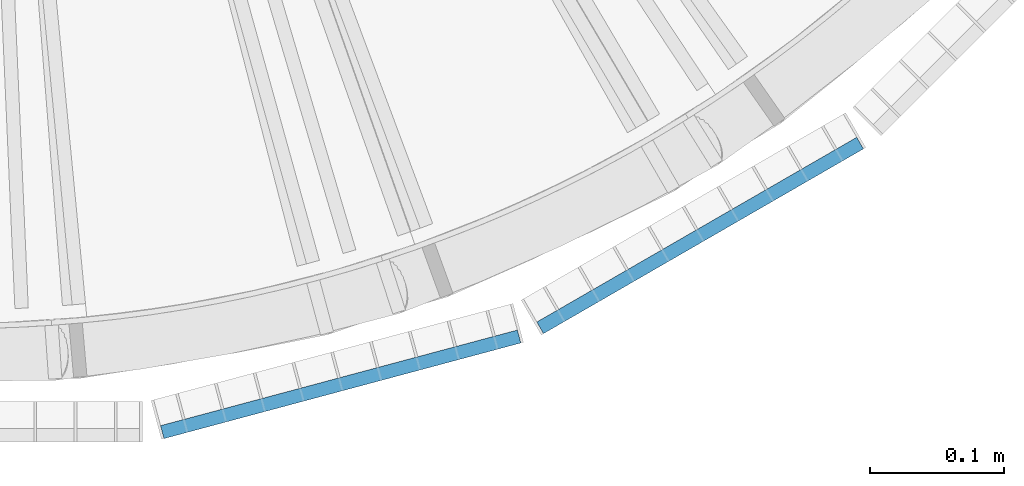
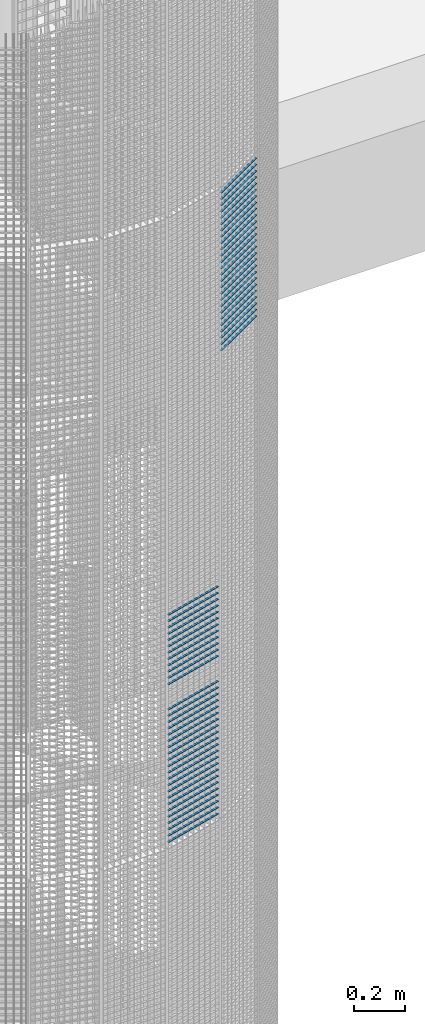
# One storey, part 397 of 1148: 60 beams, 2 elements without a shape of their own.
"""IFC2X3 building model written with IfcOpenShell, lengths in millimetres."""

from ifc_helpers import new_model, si_unit, frame, origin_with_axes, origin_2d_with_axis, place, context, subcontext, project, spatial, rectangle, extrude, material, type_object, element, aggregate, save


model = new_model("IFC2X3")

# Units and contexts
model_context = context("Model", 3, precision=1e-05, world=origin_with_axes())
body_context = subcontext(model_context, "Body", "Model", "MODEL_VIEW")
ifc_project = project(units=[si_unit("LENGTHUNIT", "METRE", prefix="MILLI"), si_unit("AREAUNIT", "SQUARE_METRE"), si_unit("VOLUMEUNIT", "CUBIC_METRE"), si_unit("MASSUNIT", "GRAM", prefix="KILO"), si_unit("TIMEUNIT", "SECOND"), si_unit("PLANEANGLEUNIT", "RADIAN"), si_unit("SOLIDANGLEUNIT", "STERADIAN"), si_unit("THERMODYNAMICTEMPERATUREUNIT", "DEGREE_CELSIUS"), si_unit("LUMINOUSINTENSITYUNIT", "LUMEN")], contexts=[model_context])

# Site, building, storey
site_placement = place(None, origin_with_axes())
site = spatial("IfcSite", under=ifc_project, at=site_placement, Name="Undefined", CompositionType="ELEMENT")
building_placement = place(site_placement, origin_with_axes())
building = spatial("IfcBuilding", under=site, at=building_placement, Name="Undefined", CompositionType="ELEMENT")
storey_placement = place(building_placement, origin_with_axes())
storey = spatial("IfcBuildingStorey", under=building, at=storey_placement, Name="Undefined", CompositionType="ELEMENT", Elevation=0.0)

# Assembly, beams
assembly_1_placement = place(storey_placement, origin_with_axes())
assembly_1 = element("IfcElementAssembly", 1, at=assembly_1_placement, inside=storey, Name="BORDURE", AssemblyPlace="NOTDEFINED", PredefinedType="NOTDEFINED")
ifc_material = material(Name="STEEL/S235JR")
beam_type = type_object("IfcBeamType", Name="PL2*10", PredefinedType="NOTDEFINED")
beam_1_placement = place(assembly_1_placement, frame((22021.4837339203, -1039.82309522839, 6660.0), z_axis=(0.258819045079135, -0.965925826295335, 0.0), x_axis=(-0.965925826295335, -0.258819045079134, 0.0)))
beam_1 = element("IfcBeam", 2, at=beam_1_placement, type_object=beam_type, material=ifc_material, Name="ENTRETOISE", context=body_context, shape_type="SweptSolid", body=[
    extrude(rectangle(XDim=2.0, YDim=10.0, at=origin_2d_with_axis()), frame((275.999999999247, 9.09494701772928e-13, 1.53210777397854e-14), z_axis=(-1.0, 0.0, 0.0), x_axis=(0.0, -1.0, 0.0)), (0.0, 0.0, 1.0), 276.0),
])
beam_2_placement = place(assembly_1_placement, frame((22021.4837339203, -1039.82309522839, 6630.0), z_axis=(0.258819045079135, -0.965925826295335, 0.0), x_axis=(-0.965925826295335, -0.258819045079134, 0.0)))
beam_2 = element("IfcBeam", 3, at=beam_2_placement, type_object=beam_type, material=ifc_material, Name="ENTRETOISE", context=body_context, shape_type="SweptSolid", body=[
    extrude(rectangle(XDim=2.0, YDim=10.0, at=origin_2d_with_axis()), frame((275.999999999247, 9.09494701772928e-13, 1.53210777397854e-14), z_axis=(-1.0, 0.0, 0.0), x_axis=(0.0, -1.0, 0.0)), (0.0, 0.0, 1.0), 276.0),
])
beam_3_placement = place(assembly_1_placement, frame((22021.4837339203, -1039.82309522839, 6780.0), z_axis=(0.258819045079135, -0.965925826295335, 0.0), x_axis=(-0.965925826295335, -0.258819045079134, 0.0)))
beam_3 = element("IfcBeam", 4, at=beam_3_placement, type_object=beam_type, material=ifc_material, Name="ENTRETOISE", context=body_context, shape_type="SweptSolid", body=[
    extrude(rectangle(XDim=2.0, YDim=10.0, at=origin_2d_with_axis()), frame((275.999999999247, 9.09494701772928e-13, 1.53210777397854e-14), z_axis=(-1.0, 0.0, 0.0), x_axis=(0.0, -1.0, 0.0)), (0.0, 0.0, 1.0), 276.0),
])
beam_4_placement = place(assembly_1_placement, frame((22021.4837339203, -1039.82309522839, 6600.0), z_axis=(0.258819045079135, -0.965925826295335, 0.0), x_axis=(-0.965925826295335, -0.258819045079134, 0.0)))
beam_4 = element("IfcBeam", 5, at=beam_4_placement, type_object=beam_type, material=ifc_material, Name="ENTRETOISE", context=body_context, shape_type="SweptSolid", body=[
    extrude(rectangle(XDim=2.0, YDim=10.0, at=origin_2d_with_axis()), frame((275.999999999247, 9.09494701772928e-13, 1.53210777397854e-14), z_axis=(-1.0, 0.0, 0.0), x_axis=(0.0, -1.0, 0.0)), (0.0, 0.0, 1.0), 276.0),
])
beam_5_placement = place(assembly_1_placement, frame((22021.4837339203, -1039.82309522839, 6810.0), z_axis=(0.258819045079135, -0.965925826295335, 0.0), x_axis=(-0.965925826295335, -0.258819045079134, 0.0)))
beam_5 = element("IfcBeam", 6, at=beam_5_placement, type_object=beam_type, material=ifc_material, Name="ENTRETOISE", context=body_context, shape_type="SweptSolid", body=[
    extrude(rectangle(XDim=2.0, YDim=10.0, at=origin_2d_with_axis()), frame((275.999999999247, 9.09494701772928e-13, 1.53210777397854e-14), z_axis=(-1.0, 0.0, 0.0), x_axis=(0.0, -1.0, 0.0)), (0.0, 0.0, 1.0), 276.0),
])
beam_6_placement = place(assembly_1_placement, frame((22021.4837339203, -1039.82309522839, 6570.0), z_axis=(0.258819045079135, -0.965925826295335, 0.0), x_axis=(-0.965925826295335, -0.258819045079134, 0.0)))
beam_6 = element("IfcBeam", 7, at=beam_6_placement, type_object=beam_type, material=ifc_material, Name="ENTRETOISE", context=body_context, shape_type="SweptSolid", body=[
    extrude(rectangle(XDim=2.0, YDim=10.0, at=origin_2d_with_axis()), frame((275.999999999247, 9.09494701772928e-13, 1.53210777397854e-14), z_axis=(-1.0, 0.0, 0.0), x_axis=(0.0, -1.0, 0.0)), (0.0, 0.0, 1.0), 276.0),
])
beam_7_placement = place(assembly_1_placement, frame((22021.4837339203, -1039.82309522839, 6540.0), z_axis=(0.258819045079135, -0.965925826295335, 0.0), x_axis=(-0.965925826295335, -0.258819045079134, 0.0)))
beam_7 = element("IfcBeam", 8, at=beam_7_placement, type_object=beam_type, material=ifc_material, Name="ENTRETOISE", context=body_context, shape_type="SweptSolid", body=[
    extrude(rectangle(XDim=2.0, YDim=10.0, at=origin_2d_with_axis()), frame((275.999999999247, 9.09494701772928e-13, 1.53210777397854e-14), z_axis=(-1.0, 0.0, 0.0), x_axis=(0.0, -1.0, 0.0)), (0.0, 0.0, 1.0), 276.0),
])
beam_8_placement = place(assembly_1_placement, frame((22021.4837339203, -1039.82309522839, 6840.0), z_axis=(0.258819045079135, -0.965925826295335, 0.0), x_axis=(-0.965925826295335, -0.258819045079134, 0.0)))
beam_8 = element("IfcBeam", 9, at=beam_8_placement, type_object=beam_type, material=ifc_material, Name="ENTRETOISE", context=body_context, shape_type="SweptSolid", body=[
    extrude(rectangle(XDim=2.0, YDim=10.0, at=origin_2d_with_axis()), frame((275.999999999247, 9.09494701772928e-13, 1.53210777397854e-14), z_axis=(-1.0, 0.0, 0.0), x_axis=(0.0, -1.0, 0.0)), (0.0, 0.0, 1.0), 276.0),
])
beam_9_placement = place(assembly_1_placement, frame((22021.4837339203, -1039.82309522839, 6510.0), z_axis=(0.258819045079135, -0.965925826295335, 0.0), x_axis=(-0.965925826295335, -0.258819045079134, 0.0)))
beam_9 = element("IfcBeam", 10, at=beam_9_placement, type_object=beam_type, material=ifc_material, Name="ENTRETOISE", context=body_context, shape_type="SweptSolid", body=[
    extrude(rectangle(XDim=2.0, YDim=10.0, at=origin_2d_with_axis()), frame((275.999999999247, 9.09494701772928e-13, 1.53210777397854e-14), z_axis=(-1.0, 0.0, 0.0), x_axis=(0.0, -1.0, 0.0)), (0.0, 0.0, 1.0), 276.0),
])
beam_10_placement = place(assembly_1_placement, frame((22021.4837339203, -1039.82309522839, 6480.0), z_axis=(0.258819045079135, -0.965925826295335, 0.0), x_axis=(-0.965925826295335, -0.258819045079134, 0.0)))
beam_10 = element("IfcBeam", 11, at=beam_10_placement, type_object=beam_type, material=ifc_material, Name="ENTRETOISE", context=body_context, shape_type="SweptSolid", body=[
    extrude(rectangle(XDim=2.0, YDim=10.0, at=origin_2d_with_axis()), frame((275.999999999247, 9.09494701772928e-13, 1.53210777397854e-14), z_axis=(-1.0, 0.0, 0.0), x_axis=(0.0, -1.0, 0.0)), (0.0, 0.0, 1.0), 276.0),
])
beam_11_placement = place(assembly_1_placement, frame((22021.4837339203, -1039.82309522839, 6870.0), z_axis=(0.258819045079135, -0.965925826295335, 0.0), x_axis=(-0.965925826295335, -0.258819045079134, 0.0)))
beam_11 = element("IfcBeam", 12, at=beam_11_placement, type_object=beam_type, material=ifc_material, Name="ENTRETOISE", context=body_context, shape_type="SweptSolid", body=[
    extrude(rectangle(XDim=2.0, YDim=10.0, at=origin_2d_with_axis()), frame((275.999999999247, 9.09494701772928e-13, 1.53210777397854e-14), z_axis=(-1.0, 0.0, 0.0), x_axis=(0.0, -1.0, 0.0)), (0.0, 0.0, 1.0), 276.0),
])
beam_12_placement = place(assembly_1_placement, frame((22021.4837339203, -1039.82309522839, 6450.0), z_axis=(0.258819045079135, -0.965925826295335, 0.0), x_axis=(-0.965925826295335, -0.258819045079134, 0.0)))
beam_12 = element("IfcBeam", 13, at=beam_12_placement, type_object=beam_type, material=ifc_material, Name="ENTRETOISE", context=body_context, shape_type="SweptSolid", body=[
    extrude(rectangle(XDim=2.0, YDim=10.0, at=origin_2d_with_axis()), frame((275.999999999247, 9.09494701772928e-13, 1.53210777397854e-14), z_axis=(-1.0, 0.0, 0.0), x_axis=(0.0, -1.0, 0.0)), (0.0, 0.0, 1.0), 276.0),
])
beam_13_placement = place(assembly_1_placement, frame((22021.4837339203, -1039.82309522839, 6420.0), z_axis=(0.258819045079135, -0.965925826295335, 0.0), x_axis=(-0.965925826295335, -0.258819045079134, 0.0)))
beam_13 = element("IfcBeam", 14, at=beam_13_placement, type_object=beam_type, material=ifc_material, Name="ENTRETOISE", context=body_context, shape_type="SweptSolid", body=[
    extrude(rectangle(XDim=2.0, YDim=10.0, at=origin_2d_with_axis()), frame((275.999999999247, 9.09494701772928e-13, 1.53210777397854e-14), z_axis=(-1.0, 0.0, 0.0), x_axis=(0.0, -1.0, 0.0)), (0.0, 0.0, 1.0), 276.0),
])
beam_14_placement = place(assembly_1_placement, frame((22021.4837339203, -1039.82309522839, 6900.0), z_axis=(0.258819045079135, -0.965925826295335, 0.0), x_axis=(-0.965925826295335, -0.258819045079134, 0.0)))
beam_14 = element("IfcBeam", 15, at=beam_14_placement, type_object=beam_type, material=ifc_material, Name="ENTRETOISE", context=body_context, shape_type="SweptSolid", body=[
    extrude(rectangle(XDim=2.0, YDim=10.0, at=origin_2d_with_axis()), frame((275.999999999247, 9.09494701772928e-13, 1.53210777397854e-14), z_axis=(-1.0, 0.0, 0.0), x_axis=(0.0, -1.0, 0.0)), (0.0, 0.0, 1.0), 276.0),
])
beam_15_placement = place(assembly_1_placement, frame((22021.4837339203, -1039.82309522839, 6390.0), z_axis=(0.258819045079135, -0.965925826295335, 0.0), x_axis=(-0.965925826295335, -0.258819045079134, 0.0)))
beam_15 = element("IfcBeam", 16, at=beam_15_placement, type_object=beam_type, material=ifc_material, Name="ENTRETOISE", context=body_context, shape_type="SweptSolid", body=[
    extrude(rectangle(XDim=2.0, YDim=10.0, at=origin_2d_with_axis()), frame((275.999999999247, 9.09494701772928e-13, 1.53210777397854e-14), z_axis=(-1.0, 0.0, 0.0), x_axis=(0.0, -1.0, 0.0)), (0.0, 0.0, 1.0), 276.0),
])
beam_16_placement = place(assembly_1_placement, frame((22021.4837339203, -1039.82309522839, 6930.0), z_axis=(0.258819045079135, -0.965925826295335, 0.0), x_axis=(-0.965925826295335, -0.258819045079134, 0.0)))
beam_16 = element("IfcBeam", 17, at=beam_16_placement, type_object=beam_type, material=ifc_material, Name="ENTRETOISE", context=body_context, shape_type="SweptSolid", body=[
    extrude(rectangle(XDim=2.0, YDim=10.0, at=origin_2d_with_axis()), frame((275.999999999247, 9.09494701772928e-13, 1.53210777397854e-14), z_axis=(-1.0, 0.0, 0.0), x_axis=(0.0, -1.0, 0.0)), (0.0, 0.0, 1.0), 276.0),
])
beam_17_placement = place(assembly_1_placement, frame((22021.4837339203, -1039.82309522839, 6360.0), z_axis=(0.258819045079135, -0.965925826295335, 0.0), x_axis=(-0.965925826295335, -0.258819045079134, 0.0)))
beam_17 = element("IfcBeam", 18, at=beam_17_placement, type_object=beam_type, material=ifc_material, Name="ENTRETOISE", context=body_context, shape_type="SweptSolid", body=[
    extrude(rectangle(XDim=2.0, YDim=10.0, at=origin_2d_with_axis()), frame((275.999999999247, 9.09494701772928e-13, 1.53210777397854e-14), z_axis=(-1.0, 0.0, 0.0), x_axis=(0.0, -1.0, 0.0)), (0.0, 0.0, 1.0), 276.0),
])
beam_18_placement = place(assembly_1_placement, frame((22021.4837339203, -1039.82309522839, 6330.0), z_axis=(0.258819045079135, -0.965925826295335, 0.0), x_axis=(-0.965925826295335, -0.258819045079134, 0.0)))
beam_18 = element("IfcBeam", 19, at=beam_18_placement, type_object=beam_type, material=ifc_material, Name="ENTRETOISE", context=body_context, shape_type="SweptSolid", body=[
    extrude(rectangle(XDim=2.0, YDim=10.0, at=origin_2d_with_axis()), frame((275.999999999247, 9.09494701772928e-13, 1.53210777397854e-14), z_axis=(-1.0, 0.0, 0.0), x_axis=(0.0, -1.0, 0.0)), (0.0, 0.0, 1.0), 276.0),
])
beam_19_placement = place(assembly_1_placement, frame((22021.4837339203, -1039.82309522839, 6960.0), z_axis=(0.258819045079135, -0.965925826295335, 0.0), x_axis=(-0.965925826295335, -0.258819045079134, 0.0)))
beam_19 = element("IfcBeam", 20, at=beam_19_placement, type_object=beam_type, material=ifc_material, Name="ENTRETOISE", context=body_context, shape_type="SweptSolid", body=[
    extrude(rectangle(XDim=2.0, YDim=10.0, at=origin_2d_with_axis()), frame((275.999999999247, 9.09494701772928e-13, 1.53210777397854e-14), z_axis=(-1.0, 0.0, 0.0), x_axis=(0.0, -1.0, 0.0)), (0.0, 0.0, 1.0), 276.0),
])
beam_20_placement = place(assembly_1_placement, frame((22021.4837339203, -1039.82309522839, 6300.0), z_axis=(0.258819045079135, -0.965925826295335, 0.0), x_axis=(-0.965925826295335, -0.258819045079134, 0.0)))
beam_20 = element("IfcBeam", 21, at=beam_20_placement, type_object=beam_type, material=ifc_material, Name="ENTRETOISE", context=body_context, shape_type="SweptSolid", body=[
    extrude(rectangle(XDim=2.0, YDim=10.0, at=origin_2d_with_axis()), frame((275.999999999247, 9.09494701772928e-13, 1.53210777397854e-14), z_axis=(-1.0, 0.0, 0.0), x_axis=(0.0, -1.0, 0.0)), (0.0, 0.0, 1.0), 276.0),
])
beam_21_placement = place(assembly_1_placement, frame((22021.4837339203, -1039.82309522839, 6270.0), z_axis=(0.258819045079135, -0.965925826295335, 0.0), x_axis=(-0.965925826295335, -0.258819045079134, 0.0)))
beam_21 = element("IfcBeam", 22, at=beam_21_placement, type_object=beam_type, material=ifc_material, Name="ENTRETOISE", context=body_context, shape_type="SweptSolid", body=[
    extrude(rectangle(XDim=2.0, YDim=10.0, at=origin_2d_with_axis()), frame((275.999999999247, 9.09494701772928e-13, 1.53210777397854e-14), z_axis=(-1.0, 0.0, 0.0), x_axis=(0.0, -1.0, 0.0)), (0.0, 0.0, 1.0), 276.0),
])
beam_22_placement = place(assembly_1_placement, frame((22021.4837339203, -1039.82309522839, 6990.0), z_axis=(0.258819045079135, -0.965925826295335, 0.0), x_axis=(-0.965925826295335, -0.258819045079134, 0.0)))
beam_22 = element("IfcBeam", 23, at=beam_22_placement, type_object=beam_type, material=ifc_material, Name="ENTRETOISE", context=body_context, shape_type="SweptSolid", body=[
    extrude(rectangle(XDim=2.0, YDim=10.0, at=origin_2d_with_axis()), frame((275.999999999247, 9.09494701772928e-13, 1.53210777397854e-14), z_axis=(-1.0, 0.0, 0.0), x_axis=(0.0, -1.0, 0.0)), (0.0, 0.0, 1.0), 276.0),
])
beam_23_placement = place(assembly_1_placement, frame((22021.4837339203, -1039.82309522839, 6240.0), z_axis=(0.258819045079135, -0.965925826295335, 0.0), x_axis=(-0.965925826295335, -0.258819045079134, 0.0)))
beam_23 = element("IfcBeam", 24, at=beam_23_placement, type_object=beam_type, material=ifc_material, Name="ENTRETOISE", context=body_context, shape_type="SweptSolid", body=[
    extrude(rectangle(XDim=2.0, YDim=10.0, at=origin_2d_with_axis()), frame((275.999999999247, 9.09494701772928e-13, 1.53210777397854e-14), z_axis=(-1.0, 0.0, 0.0), x_axis=(0.0, -1.0, 0.0)), (0.0, 0.0, 1.0), 276.0),
])
beam_24_placement = place(assembly_1_placement, frame((22021.4837339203, -1039.82309522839, 7020.0), z_axis=(0.258819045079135, -0.965925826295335, 0.0), x_axis=(-0.965925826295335, -0.258819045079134, 0.0)))
beam_24 = element("IfcBeam", 25, at=beam_24_placement, type_object=beam_type, material=ifc_material, Name="ENTRETOISE", context=body_context, shape_type="SweptSolid", body=[
    extrude(rectangle(XDim=2.0, YDim=10.0, at=origin_2d_with_axis()), frame((275.999999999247, 9.09494701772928e-13, 1.53210777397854e-14), z_axis=(-1.0, 0.0, 0.0), x_axis=(0.0, -1.0, 0.0)), (0.0, 0.0, 1.0), 276.0),
])
beam_25_placement = place(assembly_1_placement, frame((22021.4837339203, -1039.82309522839, 6210.0), z_axis=(0.258819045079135, -0.965925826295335, 0.0), x_axis=(-0.965925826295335, -0.258819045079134, 0.0)))
beam_25 = element("IfcBeam", 26, at=beam_25_placement, type_object=beam_type, material=ifc_material, Name="ENTRETOISE", context=body_context, shape_type="SweptSolid", body=[
    extrude(rectangle(XDim=2.0, YDim=10.0, at=origin_2d_with_axis()), frame((275.999999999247, 9.09494701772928e-13, 1.53210777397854e-14), z_axis=(-1.0, 0.0, 0.0), x_axis=(0.0, -1.0, 0.0)), (0.0, 0.0, 1.0), 276.0),
])
beam_26_placement = place(assembly_1_placement, frame((22021.4837339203, -1039.82309522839, 6180.0), z_axis=(0.258819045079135, -0.965925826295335, 0.0), x_axis=(-0.965925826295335, -0.258819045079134, 0.0)))
beam_26 = element("IfcBeam", 27, at=beam_26_placement, type_object=beam_type, material=ifc_material, Name="ENTRETOISE", context=body_context, shape_type="SweptSolid", body=[
    extrude(rectangle(XDim=2.0, YDim=10.0, at=origin_2d_with_axis()), frame((275.999999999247, 9.09494701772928e-13, 1.53210777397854e-14), z_axis=(-1.0, 0.0, 0.0), x_axis=(0.0, -1.0, 0.0)), (0.0, 0.0, 1.0), 276.0),
])
beam_27_placement = place(assembly_1_placement, frame((22021.4837339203, -1039.82309522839, 7050.0), z_axis=(0.258819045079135, -0.965925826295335, 0.0), x_axis=(-0.965925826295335, -0.258819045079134, 0.0)))
beam_27 = element("IfcBeam", 28, at=beam_27_placement, type_object=beam_type, material=ifc_material, Name="ENTRETOISE", context=body_context, shape_type="SweptSolid", body=[
    extrude(rectangle(XDim=2.0, YDim=10.0, at=origin_2d_with_axis()), frame((275.999999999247, 9.09494701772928e-13, 1.53210777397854e-14), z_axis=(-1.0, 0.0, 0.0), x_axis=(0.0, -1.0, 0.0)), (0.0, 0.0, 1.0), 276.0),
])
beam_28_placement = place(assembly_1_placement, frame((22021.4837339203, -1039.82309522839, 6150.0), z_axis=(0.258819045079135, -0.965925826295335, 0.0), x_axis=(-0.965925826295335, -0.258819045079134, 0.0)))
beam_28 = element("IfcBeam", 29, at=beam_28_placement, type_object=beam_type, material=ifc_material, Name="ENTRETOISE", context=body_context, shape_type="SweptSolid", body=[
    extrude(rectangle(XDim=2.0, YDim=10.0, at=origin_2d_with_axis()), frame((275.999999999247, 9.09494701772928e-13, 1.53210777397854e-14), z_axis=(-1.0, 0.0, 0.0), x_axis=(0.0, -1.0, 0.0)), (0.0, 0.0, 1.0), 276.0),
])
beam_29_placement = place(assembly_1_placement, frame((22021.4837339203, -1039.82309522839, 6120.0), z_axis=(0.258819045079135, -0.965925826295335, 0.0), x_axis=(-0.965925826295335, -0.258819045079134, 0.0)))
beam_29 = element("IfcBeam", 30, at=beam_29_placement, type_object=beam_type, material=ifc_material, Name="ENTRETOISE", context=body_context, shape_type="SweptSolid", body=[
    extrude(rectangle(XDim=2.0, YDim=10.0, at=origin_2d_with_axis()), frame((275.999999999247, 9.09494701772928e-13, 1.53210777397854e-14), z_axis=(-1.0, 0.0, 0.0), x_axis=(0.0, -1.0, 0.0)), (0.0, 0.0, 1.0), 276.0),
])
beam_30_placement = place(assembly_1_placement, frame((22021.4837339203, -1039.82309522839, 7080.0), z_axis=(0.258819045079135, -0.965925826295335, 0.0), x_axis=(-0.965925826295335, -0.258819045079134, 0.0)))
beam_30 = element("IfcBeam", 31, at=beam_30_placement, type_object=beam_type, material=ifc_material, Name="ENTRETOISE", context=body_context, shape_type="SweptSolid", body=[
    extrude(rectangle(XDim=2.0, YDim=10.0, at=origin_2d_with_axis()), frame((275.999999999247, 9.09494701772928e-13, 1.53210777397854e-14), z_axis=(-1.0, 0.0, 0.0), x_axis=(0.0, -1.0, 0.0)), (0.0, 0.0, 1.0), 276.0),
])
beam_31_placement = place(assembly_1_placement, frame((22021.4837339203, -1039.82309522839, 6090.0), z_axis=(0.258819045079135, -0.965925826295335, 0.0), x_axis=(-0.965925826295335, -0.258819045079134, 0.0)))
beam_31 = element("IfcBeam", 32, at=beam_31_placement, type_object=beam_type, material=ifc_material, Name="ENTRETOISE", context=body_context, shape_type="SweptSolid", body=[
    extrude(rectangle(XDim=2.0, YDim=10.0, at=origin_2d_with_axis()), frame((275.999999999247, 9.09494701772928e-13, 1.53210777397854e-14), z_axis=(-1.0, 0.0, 0.0), x_axis=(0.0, -1.0, 0.0)), (0.0, 0.0, 1.0), 276.0),
])
beam_32_placement = place(assembly_1_placement, frame((22021.4837339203, -1039.82309522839, 6060.0), z_axis=(0.258819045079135, -0.965925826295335, 0.0), x_axis=(-0.965925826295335, -0.258819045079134, 0.0)))
beam_32 = element("IfcBeam", 33, at=beam_32_placement, type_object=beam_type, material=ifc_material, Name="ENTRETOISE", context=body_context, shape_type="SweptSolid", body=[
    extrude(rectangle(XDim=2.0, YDim=10.0, at=origin_2d_with_axis()), frame((275.999999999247, 9.09494701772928e-13, 1.53210777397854e-14), z_axis=(-1.0, 0.0, 0.0), x_axis=(0.0, -1.0, 0.0)), (0.0, 0.0, 1.0), 276.0),
])
beam_33_placement = place(assembly_1_placement, frame((22021.4837339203, -1039.82309522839, 7110.0), z_axis=(0.258819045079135, -0.965925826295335, 0.0), x_axis=(-0.965925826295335, -0.258819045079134, 0.0)))
beam_33 = element("IfcBeam", 34, at=beam_33_placement, type_object=beam_type, material=ifc_material, Name="ENTRETOISE", context=body_context, shape_type="SweptSolid", body=[
    extrude(rectangle(XDim=2.0, YDim=10.0, at=origin_2d_with_axis()), frame((275.999999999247, 9.09494701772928e-13, 1.53210777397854e-14), z_axis=(-1.0, 0.0, 0.0), x_axis=(0.0, -1.0, 0.0)), (0.0, 0.0, 1.0), 276.0),
])
beam_34_placement = place(assembly_1_placement, frame((22021.4837339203, -1039.82309522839, 6030.0), z_axis=(0.258819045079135, -0.965925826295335, 0.0), x_axis=(-0.965925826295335, -0.258819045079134, 0.0)))
beam_34 = element("IfcBeam", 35, at=beam_34_placement, type_object=beam_type, material=ifc_material, Name="ENTRETOISE", context=body_context, shape_type="SweptSolid", body=[
    extrude(rectangle(XDim=2.0, YDim=10.0, at=origin_2d_with_axis()), frame((275.999999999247, 9.09494701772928e-13, 1.53210777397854e-14), z_axis=(-1.0, 0.0, 0.0), x_axis=(0.0, -1.0, 0.0)), (0.0, 0.0, 1.0), 276.0),
])
aggregate(assembly_1, [beam_1, beam_2, beam_3, beam_4, beam_5, beam_6, beam_7, beam_8, beam_9, beam_10, beam_11, beam_12, beam_13, beam_14, beam_15, beam_16, beam_17, beam_18, beam_19, beam_20, beam_21, beam_22, beam_23, beam_24, beam_25, beam_26, beam_27, beam_28, beam_29, beam_30, beam_31, beam_32, beam_33, beam_34])

assembly_2_placement = place(storey_placement, origin_with_axes())
assembly_2 = element("IfcElementAssembly", 36, at=assembly_2_placement, inside=storey, Name="BORDURE", AssemblyPlace="NOTDEFINED", PredefinedType="NOTDEFINED")
beam_35_placement = place(assembly_2_placement, frame((22276.2480445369, -895.303964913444, 8970.0), z_axis=(0.499999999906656, -0.866025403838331, 0.0), x_axis=(-0.866025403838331, -0.499999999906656, 0.0)))
beam_35 = element("IfcBeam", 37, at=beam_35_placement, type_object=beam_type, material=ifc_material, Name="ENTRETOISE", context=body_context, shape_type="SweptSolid", body=[
    extrude(rectangle(XDim=2.0, YDim=10.0, at=origin_2d_with_axis()), frame((275.999999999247, 9.09494701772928e-13, 1.53210777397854e-14), z_axis=(-1.0, 0.0, 0.0), x_axis=(0.0, -1.0, 0.0)), (0.0, 0.0, 1.0), 276.0),
])
beam_36_placement = place(assembly_2_placement, frame((22276.2480445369, -895.303964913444, 8940.0), z_axis=(0.499999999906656, -0.866025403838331, 0.0), x_axis=(-0.866025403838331, -0.499999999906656, 0.0)))
beam_36 = element("IfcBeam", 38, at=beam_36_placement, type_object=beam_type, material=ifc_material, Name="ENTRETOISE", context=body_context, shape_type="SweptSolid", body=[
    extrude(rectangle(XDim=2.0, YDim=10.0, at=origin_2d_with_axis()), frame((275.999999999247, 9.09494701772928e-13, 1.53210777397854e-14), z_axis=(-1.0, 0.0, 0.0), x_axis=(0.0, -1.0, 0.0)), (0.0, 0.0, 1.0), 276.0),
])
beam_37_placement = place(assembly_2_placement, frame((22276.2480445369, -895.303964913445, 8910.0), z_axis=(0.499999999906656, -0.866025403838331, 0.0), x_axis=(-0.866025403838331, -0.499999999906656, 0.0)))
beam_37 = element("IfcBeam", 39, at=beam_37_placement, type_object=beam_type, material=ifc_material, Name="ENTRETOISE", context=body_context, shape_type="SweptSolid", body=[
    extrude(rectangle(XDim=2.0, YDim=10.0, at=origin_2d_with_axis()), frame((275.999999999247, 9.09494701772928e-13, 1.53210777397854e-14), z_axis=(-1.0, 0.0, 0.0), x_axis=(0.0, -1.0, 0.0)), (0.0, 0.0, 1.0), 276.0),
])
beam_38_placement = place(assembly_2_placement, frame((22276.2480445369, -895.303964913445, 8880.0), z_axis=(0.499999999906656, -0.866025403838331, 0.0), x_axis=(-0.866025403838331, -0.499999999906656, 0.0)))
beam_38 = element("IfcBeam", 40, at=beam_38_placement, type_object=beam_type, material=ifc_material, Name="ENTRETOISE", context=body_context, shape_type="SweptSolid", body=[
    extrude(rectangle(XDim=2.0, YDim=10.0, at=origin_2d_with_axis()), frame((275.999999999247, 9.09494701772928e-13, 1.53210777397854e-14), z_axis=(-1.0, 0.0, 0.0), x_axis=(0.0, -1.0, 0.0)), (0.0, 0.0, 1.0), 276.0),
])
beam_39_placement = place(assembly_2_placement, frame((22276.2480445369, -895.303964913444, 8850.0), z_axis=(0.499999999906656, -0.866025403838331, 0.0), x_axis=(-0.866025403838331, -0.499999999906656, 0.0)))
beam_39 = element("IfcBeam", 41, at=beam_39_placement, type_object=beam_type, material=ifc_material, Name="ENTRETOISE", context=body_context, shape_type="SweptSolid", body=[
    extrude(rectangle(XDim=2.0, YDim=10.0, at=origin_2d_with_axis()), frame((275.999999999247, 9.09494701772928e-13, 1.53210777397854e-14), z_axis=(-1.0, 0.0, 0.0), x_axis=(0.0, -1.0, 0.0)), (0.0, 0.0, 1.0), 276.0),
])
beam_40_placement = place(assembly_2_placement, frame((22276.2480445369, -895.303964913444, 8820.0), z_axis=(0.499999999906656, -0.866025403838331, 0.0), x_axis=(-0.866025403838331, -0.499999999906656, 0.0)))
beam_40 = element("IfcBeam", 42, at=beam_40_placement, type_object=beam_type, material=ifc_material, Name="ENTRETOISE", context=body_context, shape_type="SweptSolid", body=[
    extrude(rectangle(XDim=2.0, YDim=10.0, at=origin_2d_with_axis()), frame((275.999999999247, 9.09494701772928e-13, 1.53210777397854e-14), z_axis=(-1.0, 0.0, 0.0), x_axis=(0.0, -1.0, 0.0)), (0.0, 0.0, 1.0), 276.0),
])
beam_41_placement = place(assembly_2_placement, frame((22276.2480445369, -895.303964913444, 8790.0), z_axis=(0.499999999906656, -0.866025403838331, 0.0), x_axis=(-0.866025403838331, -0.499999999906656, 0.0)))
beam_41 = element("IfcBeam", 43, at=beam_41_placement, type_object=beam_type, material=ifc_material, Name="ENTRETOISE", context=body_context, shape_type="SweptSolid", body=[
    extrude(rectangle(XDim=2.0, YDim=10.0, at=origin_2d_with_axis()), frame((275.999999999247, 9.09494701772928e-13, 1.53210777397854e-14), z_axis=(-1.0, 0.0, 0.0), x_axis=(0.0, -1.0, 0.0)), (0.0, 0.0, 1.0), 276.0),
])
beam_42_placement = place(assembly_2_placement, frame((22276.2480445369, -895.303964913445, 8760.0), z_axis=(0.499999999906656, -0.866025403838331, 0.0), x_axis=(-0.866025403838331, -0.499999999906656, 0.0)))
beam_42 = element("IfcBeam", 44, at=beam_42_placement, type_object=beam_type, material=ifc_material, Name="ENTRETOISE", context=body_context, shape_type="SweptSolid", body=[
    extrude(rectangle(XDim=2.0, YDim=10.0, at=origin_2d_with_axis()), frame((275.999999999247, 9.09494701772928e-13, 1.53210777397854e-14), z_axis=(-1.0, 0.0, 0.0), x_axis=(0.0, -1.0, 0.0)), (0.0, 0.0, 1.0), 276.0),
])
beam_43_placement = place(assembly_2_placement, frame((22276.2480445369, -895.303964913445, 8730.0), z_axis=(0.499999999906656, -0.866025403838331, 0.0), x_axis=(-0.866025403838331, -0.499999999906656, 0.0)))
beam_43 = element("IfcBeam", 45, at=beam_43_placement, type_object=beam_type, material=ifc_material, Name="ENTRETOISE", context=body_context, shape_type="SweptSolid", body=[
    extrude(rectangle(XDim=2.0, YDim=10.0, at=origin_2d_with_axis()), frame((275.999999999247, 9.09494701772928e-13, 1.53210777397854e-14), z_axis=(-1.0, 0.0, 0.0), x_axis=(0.0, -1.0, 0.0)), (0.0, 0.0, 1.0), 276.0),
])
beam_44_placement = place(assembly_2_placement, frame((22276.2480445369, -895.303964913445, 8700.0), z_axis=(0.499999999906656, -0.866025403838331, 0.0), x_axis=(-0.866025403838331, -0.499999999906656, 0.0)))
beam_44 = element("IfcBeam", 46, at=beam_44_placement, type_object=beam_type, material=ifc_material, Name="ENTRETOISE", context=body_context, shape_type="SweptSolid", body=[
    extrude(rectangle(XDim=2.0, YDim=10.0, at=origin_2d_with_axis()), frame((275.999999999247, 9.09494701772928e-13, 1.53210777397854e-14), z_axis=(-1.0, 0.0, 0.0), x_axis=(0.0, -1.0, 0.0)), (0.0, 0.0, 1.0), 276.0),
])
beam_45_placement = place(assembly_2_placement, frame((22276.2480445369, -895.303964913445, 8670.0), z_axis=(0.499999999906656, -0.866025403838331, 0.0), x_axis=(-0.866025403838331, -0.499999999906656, 0.0)))
beam_45 = element("IfcBeam", 47, at=beam_45_placement, type_object=beam_type, material=ifc_material, Name="ENTRETOISE", context=body_context, shape_type="SweptSolid", body=[
    extrude(rectangle(XDim=2.0, YDim=10.0, at=origin_2d_with_axis()), frame((275.999999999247, 9.09494701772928e-13, 1.53210777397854e-14), z_axis=(-1.0, 0.0, 0.0), x_axis=(0.0, -1.0, 0.0)), (0.0, 0.0, 1.0), 276.0),
])
beam_46_placement = place(assembly_2_placement, frame((22276.2480445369, -895.303964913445, 8640.0), z_axis=(0.499999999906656, -0.866025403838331, 0.0), x_axis=(-0.866025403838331, -0.499999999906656, 0.0)))
beam_46 = element("IfcBeam", 48, at=beam_46_placement, type_object=beam_type, material=ifc_material, Name="ENTRETOISE", context=body_context, shape_type="SweptSolid", body=[
    extrude(rectangle(XDim=2.0, YDim=10.0, at=origin_2d_with_axis()), frame((275.999999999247, 9.09494701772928e-13, 1.53210777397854e-14), z_axis=(-1.0, 0.0, 0.0), x_axis=(0.0, -1.0, 0.0)), (0.0, 0.0, 1.0), 276.0),
])
beam_47_placement = place(assembly_2_placement, frame((22276.2480445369, -895.303964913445, 8610.0), z_axis=(0.499999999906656, -0.866025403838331, 0.0), x_axis=(-0.866025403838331, -0.499999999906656, 0.0)))
beam_47 = element("IfcBeam", 49, at=beam_47_placement, type_object=beam_type, material=ifc_material, Name="ENTRETOISE", context=body_context, shape_type="SweptSolid", body=[
    extrude(rectangle(XDim=2.0, YDim=10.0, at=origin_2d_with_axis()), frame((275.999999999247, 9.09494701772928e-13, 1.53210777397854e-14), z_axis=(-1.0, 0.0, 0.0), x_axis=(0.0, -1.0, 0.0)), (0.0, 0.0, 1.0), 276.0),
])
beam_48_placement = place(assembly_2_placement, frame((22276.2480445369, -895.303964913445, 8580.0), z_axis=(0.499999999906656, -0.866025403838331, 0.0), x_axis=(-0.866025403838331, -0.499999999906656, 0.0)))
beam_48 = element("IfcBeam", 50, at=beam_48_placement, type_object=beam_type, material=ifc_material, Name="ENTRETOISE", context=body_context, shape_type="SweptSolid", body=[
    extrude(rectangle(XDim=2.0, YDim=10.0, at=origin_2d_with_axis()), frame((275.999999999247, 9.09494701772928e-13, 1.53210777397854e-14), z_axis=(-1.0, 0.0, 0.0), x_axis=(0.0, -1.0, 0.0)), (0.0, 0.0, 1.0), 276.0),
])
beam_49_placement = place(assembly_2_placement, frame((22276.2480445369, -895.303964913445, 8550.0), z_axis=(0.499999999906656, -0.866025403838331, 0.0), x_axis=(-0.866025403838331, -0.499999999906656, 0.0)))
beam_49 = element("IfcBeam", 51, at=beam_49_placement, type_object=beam_type, material=ifc_material, Name="ENTRETOISE", context=body_context, shape_type="SweptSolid", body=[
    extrude(rectangle(XDim=2.0, YDim=10.0, at=origin_2d_with_axis()), frame((275.999999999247, 9.09494701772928e-13, 1.53210777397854e-14), z_axis=(-1.0, 0.0, 0.0), x_axis=(0.0, -1.0, 0.0)), (0.0, 0.0, 1.0), 276.0),
])
beam_50_placement = place(assembly_2_placement, frame((22276.2480445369, -895.303964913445, 8520.0), z_axis=(0.499999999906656, -0.866025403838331, 0.0), x_axis=(-0.866025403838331, -0.499999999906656, 0.0)))
beam_50 = element("IfcBeam", 52, at=beam_50_placement, type_object=beam_type, material=ifc_material, Name="ENTRETOISE", context=body_context, shape_type="SweptSolid", body=[
    extrude(rectangle(XDim=2.0, YDim=10.0, at=origin_2d_with_axis()), frame((275.999999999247, 9.09494701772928e-13, 1.53210777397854e-14), z_axis=(-1.0, 0.0, 0.0), x_axis=(0.0, -1.0, 0.0)), (0.0, 0.0, 1.0), 276.0),
])
beam_51_placement = place(assembly_2_placement, frame((22276.2480445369, -895.303964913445, 8490.0), z_axis=(0.499999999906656, -0.866025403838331, 0.0), x_axis=(-0.866025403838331, -0.499999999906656, 0.0)))
beam_51 = element("IfcBeam", 53, at=beam_51_placement, type_object=beam_type, material=ifc_material, Name="ENTRETOISE", context=body_context, shape_type="SweptSolid", body=[
    extrude(rectangle(XDim=2.0, YDim=10.0, at=origin_2d_with_axis()), frame((275.999999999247, 9.09494701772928e-13, 1.53210777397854e-14), z_axis=(-1.0, 0.0, 0.0), x_axis=(0.0, -1.0, 0.0)), (0.0, 0.0, 1.0), 276.0),
])
beam_52_placement = place(assembly_2_placement, frame((22276.2480445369, -895.303964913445, 8460.0), z_axis=(0.499999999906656, -0.866025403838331, 0.0), x_axis=(-0.866025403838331, -0.499999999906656, 0.0)))
beam_52 = element("IfcBeam", 54, at=beam_52_placement, type_object=beam_type, material=ifc_material, Name="ENTRETOISE", context=body_context, shape_type="SweptSolid", body=[
    extrude(rectangle(XDim=2.0, YDim=10.0, at=origin_2d_with_axis()), frame((275.999999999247, 9.09494701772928e-13, 1.53210777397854e-14), z_axis=(-1.0, 0.0, 0.0), x_axis=(0.0, -1.0, 0.0)), (0.0, 0.0, 1.0), 276.0),
])
beam_53_placement = place(assembly_2_placement, frame((22276.2480445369, -895.303964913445, 8430.0), z_axis=(0.499999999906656, -0.866025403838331, 0.0), x_axis=(-0.866025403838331, -0.499999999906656, 0.0)))
beam_53 = element("IfcBeam", 55, at=beam_53_placement, type_object=beam_type, material=ifc_material, Name="ENTRETOISE", context=body_context, shape_type="SweptSolid", body=[
    extrude(rectangle(XDim=2.0, YDim=10.0, at=origin_2d_with_axis()), frame((275.999999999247, 9.09494701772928e-13, 1.53210777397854e-14), z_axis=(-1.0, 0.0, 0.0), x_axis=(0.0, -1.0, 0.0)), (0.0, 0.0, 1.0), 276.0),
])
beam_54_placement = place(assembly_2_placement, frame((22276.2480445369, -895.303964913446, 8400.0), z_axis=(0.499999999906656, -0.866025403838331, 0.0), x_axis=(-0.866025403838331, -0.499999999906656, 0.0)))
beam_54 = element("IfcBeam", 56, at=beam_54_placement, type_object=beam_type, material=ifc_material, Name="ENTRETOISE", context=body_context, shape_type="SweptSolid", body=[
    extrude(rectangle(XDim=2.0, YDim=10.0, at=origin_2d_with_axis()), frame((275.999999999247, 9.09494701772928e-13, 1.53210777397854e-14), z_axis=(-1.0, 0.0, 0.0), x_axis=(0.0, -1.0, 0.0)), (0.0, 0.0, 1.0), 276.0),
])
beam_55_placement = place(assembly_2_placement, frame((22276.2480445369, -895.303964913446, 8370.0), z_axis=(0.499999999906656, -0.866025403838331, 0.0), x_axis=(-0.866025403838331, -0.499999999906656, 0.0)))
beam_55 = element("IfcBeam", 57, at=beam_55_placement, type_object=beam_type, material=ifc_material, Name="ENTRETOISE", context=body_context, shape_type="SweptSolid", body=[
    extrude(rectangle(XDim=2.0, YDim=10.0, at=origin_2d_with_axis()), frame((275.999999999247, 9.09494701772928e-13, 1.53210777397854e-14), z_axis=(-1.0, 0.0, 0.0), x_axis=(0.0, -1.0, 0.0)), (0.0, 0.0, 1.0), 276.0),
])
beam_56_placement = place(assembly_2_placement, frame((22276.2480445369, -895.303964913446, 8340.0), z_axis=(0.499999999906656, -0.866025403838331, 0.0), x_axis=(-0.866025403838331, -0.499999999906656, 0.0)))
beam_56 = element("IfcBeam", 58, at=beam_56_placement, type_object=beam_type, material=ifc_material, Name="ENTRETOISE", context=body_context, shape_type="SweptSolid", body=[
    extrude(rectangle(XDim=2.0, YDim=10.0, at=origin_2d_with_axis()), frame((275.999999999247, 9.09494701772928e-13, 1.53210777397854e-14), z_axis=(-1.0, 0.0, 0.0), x_axis=(0.0, -1.0, 0.0)), (0.0, 0.0, 1.0), 276.0),
])
beam_57_placement = place(assembly_2_placement, frame((22276.2480445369, -895.303964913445, 8310.0), z_axis=(0.499999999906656, -0.866025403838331, 0.0), x_axis=(-0.866025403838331, -0.499999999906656, 0.0)))
beam_57 = element("IfcBeam", 59, at=beam_57_placement, type_object=beam_type, material=ifc_material, Name="ENTRETOISE", context=body_context, shape_type="SweptSolid", body=[
    extrude(rectangle(XDim=2.0, YDim=10.0, at=origin_2d_with_axis()), frame((275.999999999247, 9.09494701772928e-13, 1.53210777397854e-14), z_axis=(-1.0, 0.0, 0.0), x_axis=(0.0, -1.0, 0.0)), (0.0, 0.0, 1.0), 276.0),
])
beam_58_placement = place(assembly_2_placement, frame((22276.2480445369, -895.303964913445, 8280.0), z_axis=(0.499999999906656, -0.866025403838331, 0.0), x_axis=(-0.866025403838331, -0.499999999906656, 0.0)))
beam_58 = element("IfcBeam", 60, at=beam_58_placement, type_object=beam_type, material=ifc_material, Name="ENTRETOISE", context=body_context, shape_type="SweptSolid", body=[
    extrude(rectangle(XDim=2.0, YDim=10.0, at=origin_2d_with_axis()), frame((275.999999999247, 9.09494701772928e-13, 1.53210777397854e-14), z_axis=(-1.0, 0.0, 0.0), x_axis=(0.0, -1.0, 0.0)), (0.0, 0.0, 1.0), 276.0),
])
beam_59_placement = place(assembly_2_placement, frame((22276.2480445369, -895.303964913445, 8250.0), z_axis=(0.499999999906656, -0.866025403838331, 0.0), x_axis=(-0.866025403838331, -0.499999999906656, 0.0)))
beam_59 = element("IfcBeam", 61, at=beam_59_placement, type_object=beam_type, material=ifc_material, Name="ENTRETOISE", context=body_context, shape_type="SweptSolid", body=[
    extrude(rectangle(XDim=2.0, YDim=10.0, at=origin_2d_with_axis()), frame((275.999999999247, 9.09494701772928e-13, 1.53210777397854e-14), z_axis=(-1.0, 0.0, 0.0), x_axis=(0.0, -1.0, 0.0)), (0.0, 0.0, 1.0), 276.0),
])
beam_60_placement = place(assembly_2_placement, frame((22276.2480445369, -895.303964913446, 8220.0), z_axis=(0.499999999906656, -0.866025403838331, 0.0), x_axis=(-0.866025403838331, -0.499999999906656, 0.0)))
beam_60 = element("IfcBeam", 62, at=beam_60_placement, type_object=beam_type, material=ifc_material, Name="ENTRETOISE", context=body_context, shape_type="SweptSolid", body=[
    extrude(rectangle(XDim=2.0, YDim=10.0, at=origin_2d_with_axis()), frame((275.999999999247, 9.09494701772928e-13, 1.53210777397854e-14), z_axis=(-1.0, 0.0, 0.0), x_axis=(0.0, -1.0, 0.0)), (0.0, 0.0, 1.0), 276.0),
])
aggregate(assembly_2, [beam_35, beam_36, beam_37, beam_38, beam_39, beam_40, beam_41, beam_42, beam_43, beam_44, beam_45, beam_46, beam_47, beam_48, beam_49, beam_50, beam_51, beam_52, beam_53, beam_54, beam_55, beam_56, beam_57, beam_58, beam_59, beam_60])

save(model, "model.ifc")
